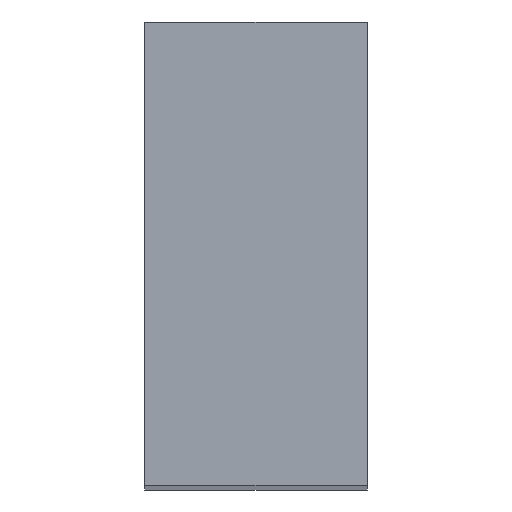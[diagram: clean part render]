
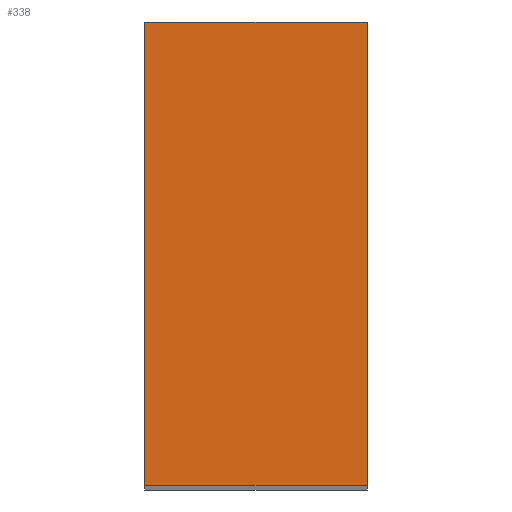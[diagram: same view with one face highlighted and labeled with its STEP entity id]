
A CAD part, top view. The second image highlights one B-rep face of the part: STEP entity #338.
In plain terms, the highlighted planar face has unit normal (0, 0, 1).
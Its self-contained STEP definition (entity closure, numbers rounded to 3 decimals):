
#24 = VERTEX_POINT('',#25);
#25 = CARTESIAN_POINT('',(178.,-12.,199.));
#32 = PLANE('',#33);
#33 = AXIS2_PLACEMENT_3D('',#34,#35,#36);
#34 = CARTESIAN_POINT('',(178.,-12.,47.));
#35 = DIRECTION('',(1.,0.,-0.));
#36 = DIRECTION('',(0.,0.,1.));
#44 = PLANE('',#45);
#45 = AXIS2_PLACEMENT_3D('',#46,#47,#48);
#46 = CARTESIAN_POINT('',(178.,-12.,47.));
#47 = DIRECTION('',(-0.,1.,0.));
#48 = DIRECTION('',(0.,0.,1.));
#85 = VERTEX_POINT('',#86);
#86 = CARTESIAN_POINT('',(178.,13.,199.));
#100 = PLANE('',#101);
#101 = AXIS2_PLACEMENT_3D('',#102,#103,#104);
#102 = CARTESIAN_POINT('',(178.,13.,47.));
#103 = DIRECTION('',(-0.,1.,0.));
#104 = DIRECTION('',(0.,0.,1.));
#112 = EDGE_CURVE('',#24,#85,#113,.T.);
#113 = SURFACE_CURVE('',#114,(#118,#125),.PCURVE_S1.);
#114 = LINE('',#115,#116);
#115 = CARTESIAN_POINT('',(178.,-12.,199.));
#116 = VECTOR('',#117,1.);
#117 = DIRECTION('',(-0.,1.,0.));
#118 = PCURVE('',#32,#119);
#119 = DEFINITIONAL_REPRESENTATION('',(#120),#124);
#120 = LINE('',#121,#122);
#121 = CARTESIAN_POINT('',(152.,0.));
#122 = VECTOR('',#123,1.);
#123 = DIRECTION('',(0.,-1.));
#124 = ( GEOMETRIC_REPRESENTATION_CONTEXT(2) 
PARAMETRIC_REPRESENTATION_CONTEXT() REPRESENTATION_CONTEXT('2D SPACE',''
  ) );
#125 = PCURVE('',#126,#131);
#126 = PLANE('',#127);
#127 = AXIS2_PLACEMENT_3D('',#128,#129,#130);
#128 = CARTESIAN_POINT('',(178.,-12.,199.));
#129 = DIRECTION('',(0.,0.,1.));
#130 = DIRECTION('',(1.,0.,-0.));
#131 = DEFINITIONAL_REPRESENTATION('',(#132),#136);
#132 = LINE('',#133,#134);
#133 = CARTESIAN_POINT('',(0.,0.));
#134 = VECTOR('',#135,1.);
#135 = DIRECTION('',(0.,1.));
#136 = ( GEOMETRIC_REPRESENTATION_CONTEXT(2) 
PARAMETRIC_REPRESENTATION_CONTEXT() REPRESENTATION_CONTEXT('2D SPACE',''
  ) );
#144 = VERTEX_POINT('',#145);
#145 = CARTESIAN_POINT('',(190.,-12.,199.));
#152 = PLANE('',#153);
#153 = AXIS2_PLACEMENT_3D('',#154,#155,#156);
#154 = CARTESIAN_POINT('',(190.,-12.,47.));
#155 = DIRECTION('',(1.,0.,-0.));
#156 = DIRECTION('',(0.,0.,1.));
#195 = VERTEX_POINT('',#196);
#196 = CARTESIAN_POINT('',(190.,13.,199.));
#217 = EDGE_CURVE('',#144,#195,#218,.T.);
#218 = SURFACE_CURVE('',#219,(#223,#230),.PCURVE_S1.);
#219 = LINE('',#220,#221);
#220 = CARTESIAN_POINT('',(190.,-12.,199.));
#221 = VECTOR('',#222,1.);
#222 = DIRECTION('',(-0.,1.,0.));
#223 = PCURVE('',#152,#224);
#224 = DEFINITIONAL_REPRESENTATION('',(#225),#229);
#225 = LINE('',#226,#227);
#226 = CARTESIAN_POINT('',(152.,0.));
#227 = VECTOR('',#228,1.);
#228 = DIRECTION('',(0.,-1.));
#229 = ( GEOMETRIC_REPRESENTATION_CONTEXT(2) 
PARAMETRIC_REPRESENTATION_CONTEXT() REPRESENTATION_CONTEXT('2D SPACE',''
  ) );
#230 = PCURVE('',#126,#231);
#231 = DEFINITIONAL_REPRESENTATION('',(#232),#236);
#232 = LINE('',#233,#234);
#233 = CARTESIAN_POINT('',(12.,0.));
#234 = VECTOR('',#235,1.);
#235 = DIRECTION('',(0.,1.));
#236 = ( GEOMETRIC_REPRESENTATION_CONTEXT(2) 
PARAMETRIC_REPRESENTATION_CONTEXT() REPRESENTATION_CONTEXT('2D SPACE',''
  ) );
#263 = EDGE_CURVE('',#24,#144,#264,.T.);
#264 = SURFACE_CURVE('',#265,(#269,#276),.PCURVE_S1.);
#265 = LINE('',#266,#267);
#266 = CARTESIAN_POINT('',(178.,-12.,199.));
#267 = VECTOR('',#268,1.);
#268 = DIRECTION('',(1.,0.,-0.));
#269 = PCURVE('',#44,#270);
#270 = DEFINITIONAL_REPRESENTATION('',(#271),#275);
#271 = LINE('',#272,#273);
#272 = CARTESIAN_POINT('',(152.,0.));
#273 = VECTOR('',#274,1.);
#274 = DIRECTION('',(0.,1.));
#275 = ( GEOMETRIC_REPRESENTATION_CONTEXT(2) 
PARAMETRIC_REPRESENTATION_CONTEXT() REPRESENTATION_CONTEXT('2D SPACE',''
  ) );
#276 = PCURVE('',#126,#277);
#277 = DEFINITIONAL_REPRESENTATION('',(#278),#282);
#278 = LINE('',#279,#280);
#279 = CARTESIAN_POINT('',(0.,0.));
#280 = VECTOR('',#281,1.);
#281 = DIRECTION('',(1.,0.));
#282 = ( GEOMETRIC_REPRESENTATION_CONTEXT(2) 
PARAMETRIC_REPRESENTATION_CONTEXT() REPRESENTATION_CONTEXT('2D SPACE',''
  ) );
#310 = EDGE_CURVE('',#85,#195,#311,.T.);
#311 = SURFACE_CURVE('',#312,(#316,#323),.PCURVE_S1.);
#312 = LINE('',#313,#314);
#313 = CARTESIAN_POINT('',(178.,13.,199.));
#314 = VECTOR('',#315,1.);
#315 = DIRECTION('',(1.,0.,-0.));
#316 = PCURVE('',#100,#317);
#317 = DEFINITIONAL_REPRESENTATION('',(#318),#322);
#318 = LINE('',#319,#320);
#319 = CARTESIAN_POINT('',(152.,0.));
#320 = VECTOR('',#321,1.);
#321 = DIRECTION('',(0.,1.));
#322 = ( GEOMETRIC_REPRESENTATION_CONTEXT(2) 
PARAMETRIC_REPRESENTATION_CONTEXT() REPRESENTATION_CONTEXT('2D SPACE',''
  ) );
#323 = PCURVE('',#126,#324);
#324 = DEFINITIONAL_REPRESENTATION('',(#325),#329);
#325 = LINE('',#326,#327);
#326 = CARTESIAN_POINT('',(0.,25.));
#327 = VECTOR('',#328,1.);
#328 = DIRECTION('',(1.,0.));
#329 = ( GEOMETRIC_REPRESENTATION_CONTEXT(2) 
PARAMETRIC_REPRESENTATION_CONTEXT() REPRESENTATION_CONTEXT('2D SPACE',''
  ) );
#338 = ADVANCED_FACE('',(#339),#126,.T.);
#339 = FACE_BOUND('',#340,.T.);
#340 = EDGE_LOOP('',(#341,#342,#343,#344));
#341 = ORIENTED_EDGE('',*,*,#112,.F.);
#342 = ORIENTED_EDGE('',*,*,#263,.T.);
#343 = ORIENTED_EDGE('',*,*,#217,.T.);
#344 = ORIENTED_EDGE('',*,*,#310,.F.);
